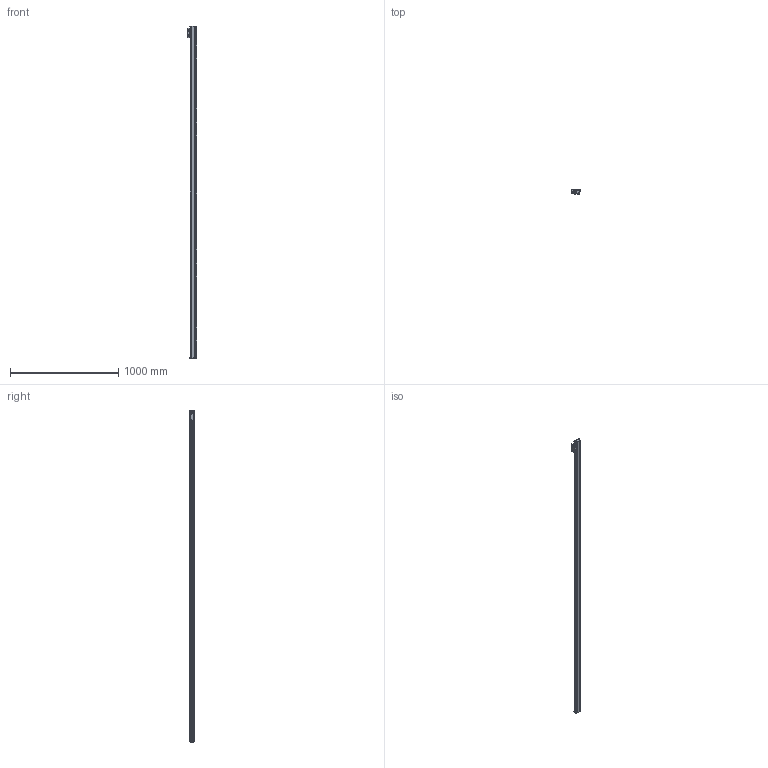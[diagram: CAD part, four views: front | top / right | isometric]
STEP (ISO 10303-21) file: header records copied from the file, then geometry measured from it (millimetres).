
FILE_DESCRIPTION(/* description */ (''),/* implementation_level */ '2;1');
FILE_NAME(/* name */ 'JC21A-2940-1.stp',/* time_stamp */ '2023-12-21T17:22:35+08:00',/* author */ (''),/* organization */ (''),/* preprocessor_version */ 'ST-DEVELOPER v14',/* originating_system */ 'SIEMENS PLM Software NX 8.0',/* authorisation */ '');
FILE_SCHEMA (('CONFIG_CONTROL_DESIGN'));
Length unit declared in the file: millimetre
Products named in the file (1): JC21A-2940-1
Bounding box: 87.5 x 37 x 3061 mm (x, y, z)
Volume: 4753691.4 mm3; surface area: 764082.4 mm2
Topology: 4 solids, 6 shells, 1579 faces, 4752 edges, 3167 vertices
Faces by surface type: plane 992, cylinder 555, cone 22, bspline 8, extrusion 2
Full cylindrical faces by diameter (mm): 2.5 x12, 3.3 x6, 3.7 x4, 4.2 x4, 5 x2, 6 x6, 6.6 x2, 6.8 x32, 7 x2, 13.2 x2
Entity records: 54675 total; most frequent: CARTESIAN_POINT 11139, ORIENTED_EDGE 9220, DIRECTION 9074, EDGE_CURVE 4610, VERTEX_POINT 3119, AXIS2_PLACEMENT_3D 3047, VECTOR 2980, LINE 2978
